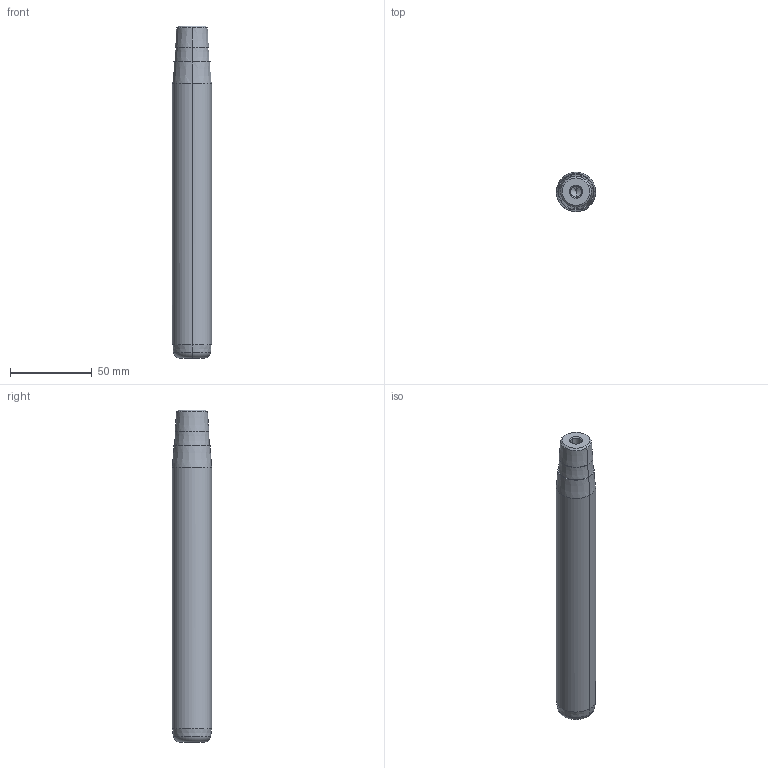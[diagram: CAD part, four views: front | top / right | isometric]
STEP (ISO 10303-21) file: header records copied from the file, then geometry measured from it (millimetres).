
FILE_DESCRIPTION(('CATIA V5 STEP Exchange'),'2;1');
FILE_NAME('C:\Users\Utente\Desktop\IO LAVORO\3D X SITO CF\X SITO\722\722-24x180x203.stp','2021-01-09T08:33:13+00:00',('none'),('none'),'CATIA Version 5 Release 20 GA (IN-10)','CATIA V5 STEP AP203','none');
FILE_SCHEMA(('CONFIG_CONTROL_DESIGN'));
Length unit declared in the file: millimetre
Products named in the file (1): 722-24x180x203
Bounding box: 24 x 24 x 203 mm (x, y, z)
Volume: 86071 mm3; surface area: 16630.3 mm2
Topology: 1 solids, 1 shells, 32 faces, 98 edges, 66 vertices
Faces by surface type: cone 22, cylinder 6, plane 2, torus 2
Entity records: 1166 total; most frequent: CARTESIAN_POINT 279, ORIENTED_EDGE 188, DIRECTION 148, EDGE_CURVE 94, AXIS2_PLACEMENT_3D 89, VERTEX_POINT 66, CIRCLE 56, EDGE_LOOP 34
